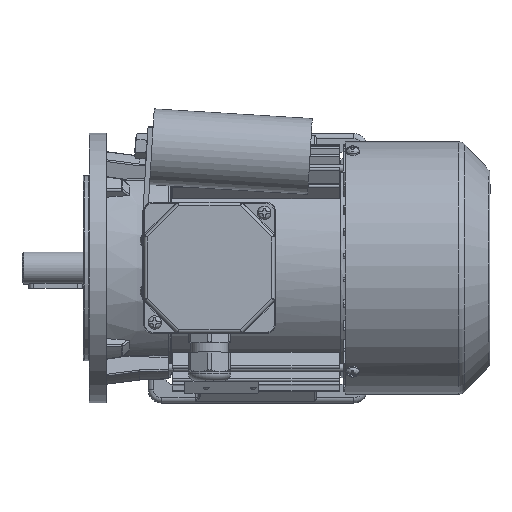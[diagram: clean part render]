
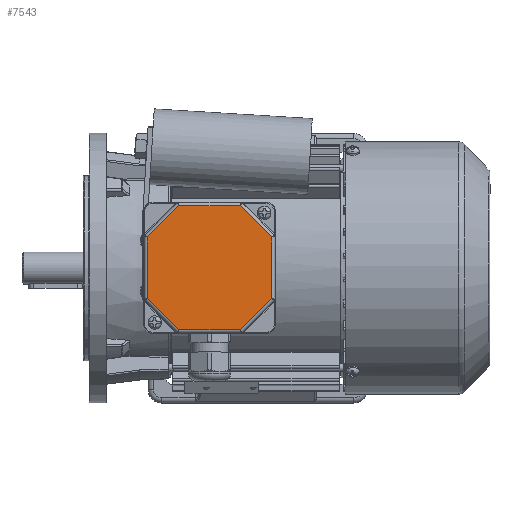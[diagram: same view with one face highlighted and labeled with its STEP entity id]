
A CAD part, top view. The second image highlights one B-rep face of the part: STEP entity #7543.
In plain terms, the highlighted planar face has unit normal (0, 0, 1).
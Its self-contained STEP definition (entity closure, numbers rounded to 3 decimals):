
#7543 = ADVANCED_FACE( '', ( #16113 ), #16114, .T. );
#16113 = FACE_OUTER_BOUND( '', #54083, .T. );
#16114 = PLANE( '', #54084 );
#54083 = EDGE_LOOP( '', ( #89779, #89780, #89781, #89782, #89783, #89784, #89785, #89786 ) );
#54084 = AXIS2_PLACEMENT_3D( '', #89787, #89788, #89789 );
#89779 = ORIENTED_EDGE( '', *, *, #108344, .T. );
#89780 = ORIENTED_EDGE( '', *, *, #102160, .T. );
#89781 = ORIENTED_EDGE( '', *, *, #108406, .T. );
#89782 = ORIENTED_EDGE( '', *, *, #108407, .T. );
#89783 = ORIENTED_EDGE( '', *, *, #108408, .T. );
#89784 = ORIENTED_EDGE( '', *, *, #108409, .T. );
#89785 = ORIENTED_EDGE( '', *, *, #103519, .T. );
#89786 = ORIENTED_EDGE( '', *, *, #106141, .T. );
#89787 = CARTESIAN_POINT( '', ( -39., 39., 12. ) );
#89788 = DIRECTION( '', ( 0., 0., 1. ) );
#89789 = DIRECTION( '', ( 1., 0., 0. ) );
#102160 = EDGE_CURVE( '', #115080, #115081, #115082, .T. );
#103519 = EDGE_CURVE( '', #114441, #117276, #117277, .F. );
#106141 = EDGE_CURVE( '', #117276, #120942, #121192, .T. );
#108344 = EDGE_CURVE( '', #120942, #115080, #124127, .F. );
#108406 = EDGE_CURVE( '', #115081, #124199, #124200, .F. );
#108407 = EDGE_CURVE( '', #124199, #121567, #124201, .T. );
#108408 = EDGE_CURVE( '', #121567, #117895, #124202, .F. );
#108409 = EDGE_CURVE( '', #117895, #114441, #124203, .T. );
#114441 = VERTEX_POINT( '', #136451 );
#115080 = VERTEX_POINT( '', #138817 );
#115081 = VERTEX_POINT( '', #138818 );
#115082 = LINE( '', #138819, #138820 );
#117276 = VERTEX_POINT( '', #146164 );
#117277 = LINE( '', #146165, #146166 );
#117895 = VERTEX_POINT( '', #148563 );
#120942 = VERTEX_POINT( '', #159022 );
#121192 = LINE( '', #159986, #159987 );
#121567 = VERTEX_POINT( '', #161450 );
#124127 = LINE( '', #170210, #170211 );
#124199 = VERTEX_POINT( '', #170388 );
#124200 = LINE( '', #170389, #170390 );
#124201 = LINE( '', #170391, #170392 );
#124202 = LINE( '', #170393, #170394 );
#124203 = LINE( '', #170395, #170396 );
#136451 = CARTESIAN_POINT( '', ( -18.255, -36.825, 12. ) );
#138817 = CARTESIAN_POINT( '', ( 36.825, 18.255, 12. ) );
#138818 = CARTESIAN_POINT( '', ( 18.255, 36.825, 12. ) );
#138819 = CARTESIAN_POINT( '', ( 17.679, 37.401, 12. ) );
#138820 = VECTOR( '', #182073, 1000. );
#146164 = CARTESIAN_POINT( '', ( 18.255, -36.825, 12. ) );
#146165 = CARTESIAN_POINT( '', ( 19.069, -36.825, 12. ) );
#146166 = VECTOR( '', #183586, 1000. );
#148563 = CARTESIAN_POINT( '', ( -36.825, -18.255, 12. ) );
#159022 = CARTESIAN_POINT( '', ( 36.825, -18.255, 12. ) );
#159986 = CARTESIAN_POINT( '', ( 37.401, -17.679, 12. ) );
#159987 = VECTOR( '', #186491, 1000. );
#161450 = CARTESIAN_POINT( '', ( -36.825, 18.255, 12. ) );
#170210 = CARTESIAN_POINT( '', ( 36.825, 19.069, 12. ) );
#170211 = VECTOR( '', #189012, 1000. );
#170388 = CARTESIAN_POINT( '', ( -18.255, 36.825, 12. ) );
#170389 = CARTESIAN_POINT( '', ( -19.069, 36.825, 12. ) );
#170390 = VECTOR( '', #189053, 1000. );
#170391 = CARTESIAN_POINT( '', ( -37.401, 17.679, 12. ) );
#170392 = VECTOR( '', #189054, 1000. );
#170393 = CARTESIAN_POINT( '', ( -36.825, -19.069, 12. ) );
#170394 = VECTOR( '', #189055, 1000. );
#170395 = CARTESIAN_POINT( '', ( -17.679, -37.401, 12. ) );
#170396 = VECTOR( '', #189056, 1000. );
#182073 = DIRECTION( '', ( -0.707, 0.707, 0. ) );
#183586 = DIRECTION( '', ( -1., 0., 0. ) );
#186491 = DIRECTION( '', ( 0.707, 0.707, 0. ) );
#189012 = DIRECTION( '', ( 0., -1., 0. ) );
#189053 = DIRECTION( '', ( 1., 0., 0. ) );
#189054 = DIRECTION( '', ( -0.707, -0.707, 0. ) );
#189055 = DIRECTION( '', ( 0., 1., 0. ) );
#189056 = DIRECTION( '', ( 0.707, -0.707, 0. ) );
